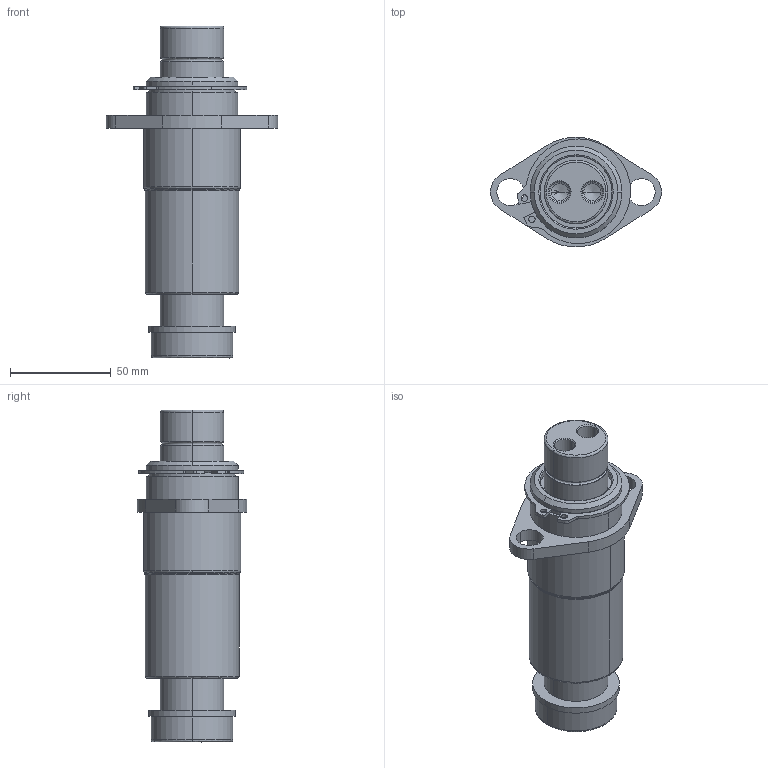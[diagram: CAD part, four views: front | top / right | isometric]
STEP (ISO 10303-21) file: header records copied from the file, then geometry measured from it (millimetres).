
FILE_DESCRIPTION (( 'STEP AP214' ), '1' );
FILE_NAME ('GK122-N4-1-BP-M-XXX.STEP', '2020-09-21T18:33:25', ( '' ), ( '' ), 'SwSTEP 2.0', 'SolidWorks 2017', '' );
FILE_SCHEMA (( 'AUTOMOTIVE_DESIGN' ));
Length unit declared in the file: inch
Products named in the file (7): GK122-N4-1-BP-M-XXX; RetainingRing; GK122-M-XXX-GuidePin; GK1.25-N4-1-BP-Base; GK122-DampeningWasher
Assembly tree (6 placements, depth 3):
  GK122-N4-1-BP-M-XXX
    GK1.25-N4-1-BP-Base
      GK1.25-N4-1-BP-Base
      RetainingRing
    GK122-M-XXX-GuidePin
      GK122-M-XXX-GuidePin
      GK122-DampeningWasher
Bounding box: 85.09 x 54.52 x 165.1 mm (x, y, z)
Volume: 240337 mm3; surface area: 57321.9 mm2
Topology: 4 solids, 4 shells, 141 faces, 321 edges, 196 vertices
Faces by surface type: cylinder 65, bspline 30, plane 24, cone 22
Entity records: 5620 total; most frequent: CARTESIAN_POINT 2133, DIRECTION 695, ORIENTED_EDGE 634, EDGE_CURVE 317, AXIS2_PLACEMENT_3D 286, VERTEX_POINT 196, EDGE_LOOP 165, CIRCLE 164
